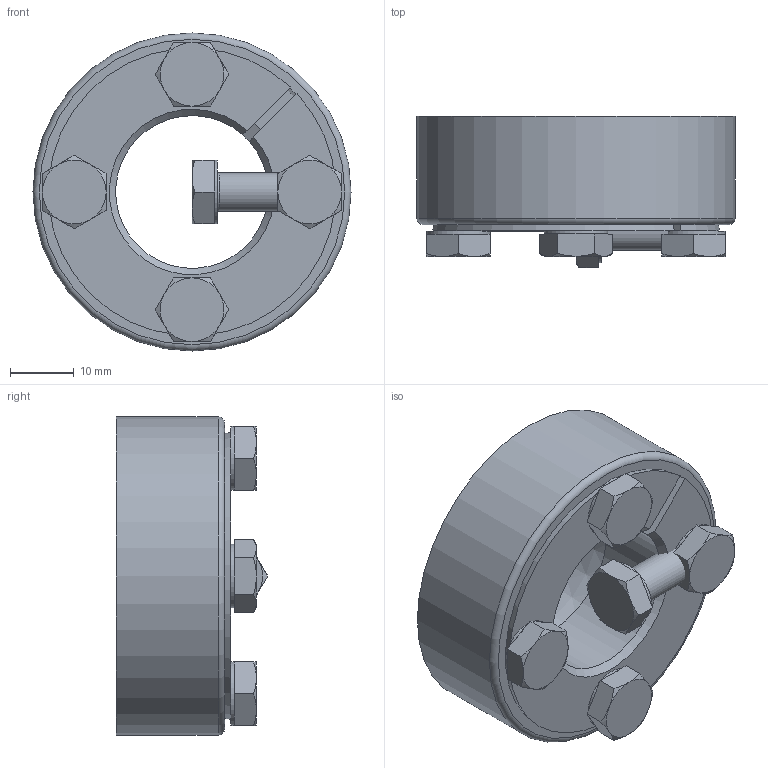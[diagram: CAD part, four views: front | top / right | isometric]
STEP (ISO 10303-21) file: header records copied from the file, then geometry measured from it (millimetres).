
FILE_DESCRIPTION( ( 'Unknown' ), '1' );
FILE_NAME( 'C:/Dokumente und Einstellungen/Sven/Desktop/homepage/cad - homepage/KBS19-1/KBS 19_1 - 24 x 50.stp', 'Unknown', ( 'Unknown' ), ( 'Unknown' ), 'XStep 1.0', 'Unknown', ' ' );
FILE_SCHEMA( ( 'automotive_design' ) );
Length unit declared in the file: millimetre
Products named in the file (3): Assem1; KBS 19_1 - 24 x 50; ISO 4017 - M6 x 16-N
Bounding box: 50 x 23.77 x 50 mm (x, y, z)
Volume: 52900.8 mm3; surface area: 19843.5 mm2
Topology: 7 solids, 7 shells, 163 faces, 366 edges, 222 vertices
Faces by surface type: plane 93, cone 41, cylinder 22, torus 7
Full cylindrical faces by diameter (mm): 6 x13, 10 x5, 50 x2
Entity records: 1442 total; most frequent: CARTESIAN_POINT 257, DIRECTION 208, ORIENTED_EDGE 182, EDGE_CURVE 91, AXIS2_PLACEMENT_3D 85, EDGE_LOOP 65, VERTEX_POINT 62, FACE_OUTER_BOUND 53
